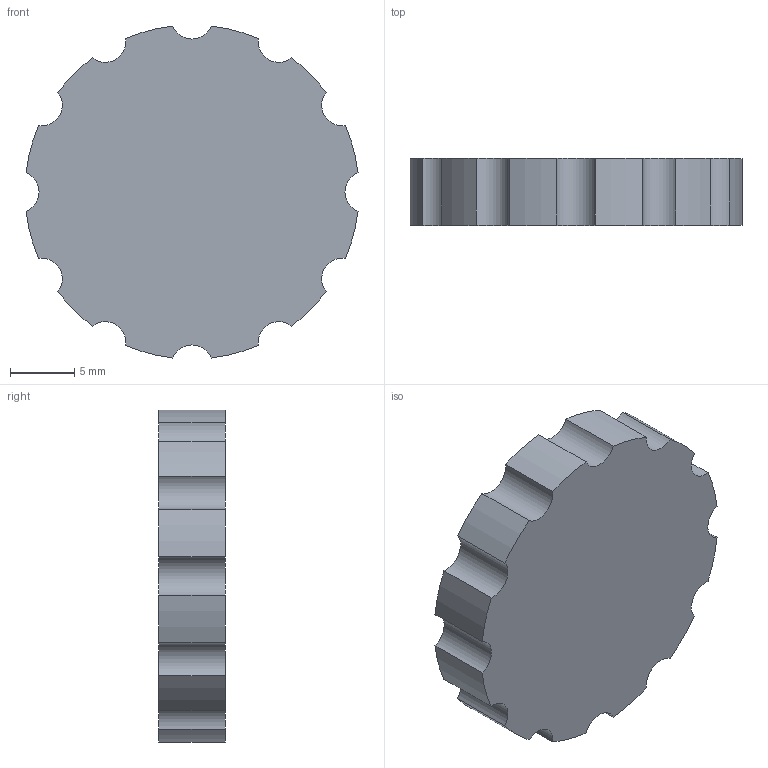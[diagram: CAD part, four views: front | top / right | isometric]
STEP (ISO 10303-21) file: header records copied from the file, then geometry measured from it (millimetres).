
FILE_DESCRIPTION(('Open CASCADE Model'),'2;1');
FILE_NAME('Open CASCADE Shape Model','2026-10-15T19:48:37',('Author'),( 'Open CASCADE'),'Open CASCADE STEP processor 7.9','Open CASCADE 7.9' ,'Unknown');
FILE_SCHEMA(('AUTOMOTIVE_DESIGN { 1 0 10303 214 1 1 1 1 }'));
Length unit declared in the file: millimetre
Products named in the file (1): Open CASCADE STEP translator 7.9 10
Bounding box: 25.83 x 5.2 x 25.83 mm (x, y, z)
Volume: 2613.6 mm3; surface area: 1482.6 mm2
Topology: 1 solids, 1 shells, 26 faces, 72 edges, 48 vertices
Faces by surface type: cylinder 24, plane 2
Entity records: 1804 total; most frequent: CARTESIAN_POINT 423, DIRECTION 256, ORIENTED_EDGE 144, PCURVE 144, DEFINITIONAL_REPRESENTATION 144, CIRCLE 82, AXIS2_PLACEMENT_3D 75, EDGE_CURVE 72
